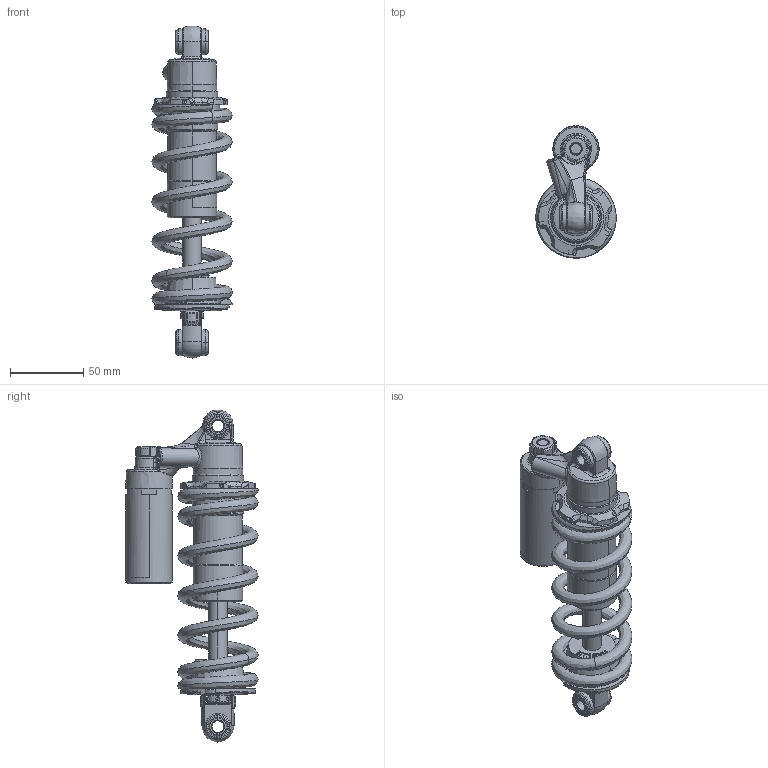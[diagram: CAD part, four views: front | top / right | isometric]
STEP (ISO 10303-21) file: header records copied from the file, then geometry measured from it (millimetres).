
FILE_DESCRIPTION((''),'2;1');
FILE_NAME('REAR_SHOCK_PART','2010-10-18T',('SGUSAROV'),('IRISOFT'),'PRO/ENGINEER BY PARAMETRIC TECHNOLOGY CORPORATION, 2009380','PRO/ENGINEER BY PARAMETRIC TECHNOLOGY CORPORATION, 2009380','');
FILE_SCHEMA(('AUTOMOTIVE_DESIGN { 1 0 10303 214 1 1 1 1 }'));
Products named in the file (1): REAR_SHOCK_PART
Bounding box: 54.8 x 90.15 x 226.47 mm (x, y, z)
Volume: 200354.5 mm3; surface area: 97676 mm2
Topology: 3 solids, 4 shells, 1378 faces, 3930 edges, 2563 vertices
Faces by surface type: cylinder 487, plane 259, bspline 235, cone 177, torus 155, extrusion 38, sphere 24, revolution 3
Entity records: 75873 total; most frequent: CARTESIAN_POINT 34969, ORIENTED_EDGE 7734, DIRECTION 6355, EDGE_CURVE 3867, AXIS2_PLACEMENT_3D 2612, VERTEX_POINT 2563, CIRCLE 1510, EDGE_LOOP 1490
